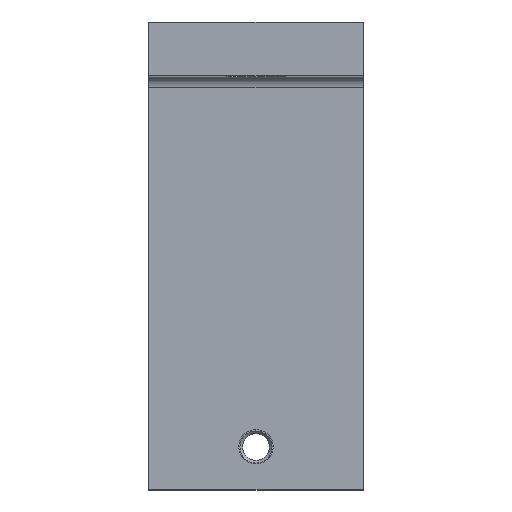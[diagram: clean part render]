
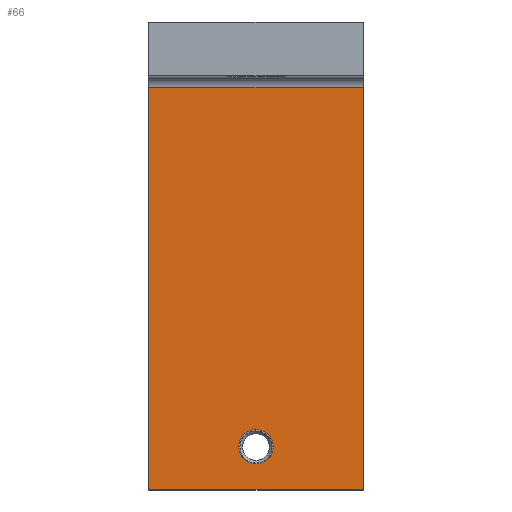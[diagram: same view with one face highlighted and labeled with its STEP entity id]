
A CAD part, top view. The second image highlights one B-rep face of the part: STEP entity #66.
In plain terms, the highlighted planar face has unit normal (0, 0, 1).
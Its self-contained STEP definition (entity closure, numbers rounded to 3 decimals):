
#43=FACE_BOUND('',#115,.T.);
#44=FACE_BOUND('',#116,.T.);
#66=ADVANCED_FACE('',(#43,#44),#88,.F.);
#88=PLANE('',#431);
#115=EDGE_LOOP('',(#175,#176,#177,#178));
#116=EDGE_LOOP('',(#179));
#147=CIRCLE('',#430,1.6);
#175=ORIENTED_EDGE('',*,*,#306,.T.);
#176=ORIENTED_EDGE('',*,*,#311,.T.);
#177=ORIENTED_EDGE('',*,*,#294,.F.);
#178=ORIENTED_EDGE('',*,*,#312,.F.);
#179=ORIENTED_EDGE('',*,*,#313,.F.);
#258=VERTEX_POINT('',#569);
#259=VERTEX_POINT('',#570);
#270=VERTEX_POINT('',#593);
#271=VERTEX_POINT('',#595);
#273=VERTEX_POINT('',#606);
#294=EDGE_CURVE('',#258,#259,#345,.T.);
#306=EDGE_CURVE('',#271,#270,#355,.T.);
#311=EDGE_CURVE('',#270,#259,#359,.T.);
#312=EDGE_CURVE('',#271,#258,#360,.T.);
#313=EDGE_CURVE('',#273,#273,#147,.T.);
#345=LINE('',#568,#384);
#355=LINE('',#594,#394);
#359=LINE('',#603,#398);
#360=LINE('',#604,#399);
#384=VECTOR('',#460,1.);
#394=VECTOR('',#476,1.);
#398=VECTOR('',#486,1.);
#399=VECTOR('',#487,1.);
#430=AXIS2_PLACEMENT_3D('',#605,#488,#489);
#431=AXIS2_PLACEMENT_3D('',#607,#490,#491);
#460=DIRECTION('',(0.,1.,0.));
#476=DIRECTION('',(0.,1.,0.));
#486=DIRECTION('',(-1.,0.,0.));
#487=DIRECTION('',(-1.,0.,0.));
#488=DIRECTION('',(0.,0.,1.));
#489=DIRECTION('',(1.,0.,0.));
#490=DIRECTION('',(0.,0.,-1.));
#491=DIRECTION('',(1.,0.,0.));
#568=CARTESIAN_POINT('',(-10.,33.,-150.5));
#569=CARTESIAN_POINT('',(-10.,33.,-150.5));
#570=CARTESIAN_POINT('',(-10.,70.5,-150.5));
#593=CARTESIAN_POINT('',(10.,70.5,-150.5));
#594=CARTESIAN_POINT('',(10.,33.,-150.5));
#595=CARTESIAN_POINT('',(10.,33.,-150.5));
#603=CARTESIAN_POINT('',(10.,70.5,-150.5));
#604=CARTESIAN_POINT('',(10.,33.,-150.5));
#605=CARTESIAN_POINT('',(0.,37.,-150.5));
#606=CARTESIAN_POINT('',(1.6,37.,-150.5));
#607=CARTESIAN_POINT('',(10.,33.,-150.5));
